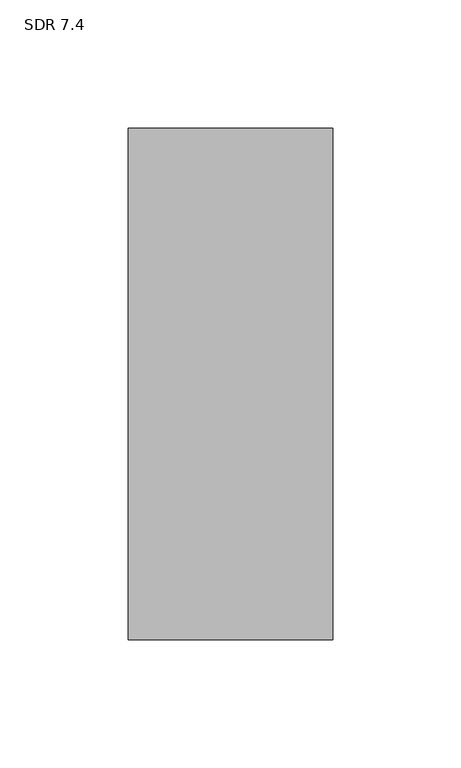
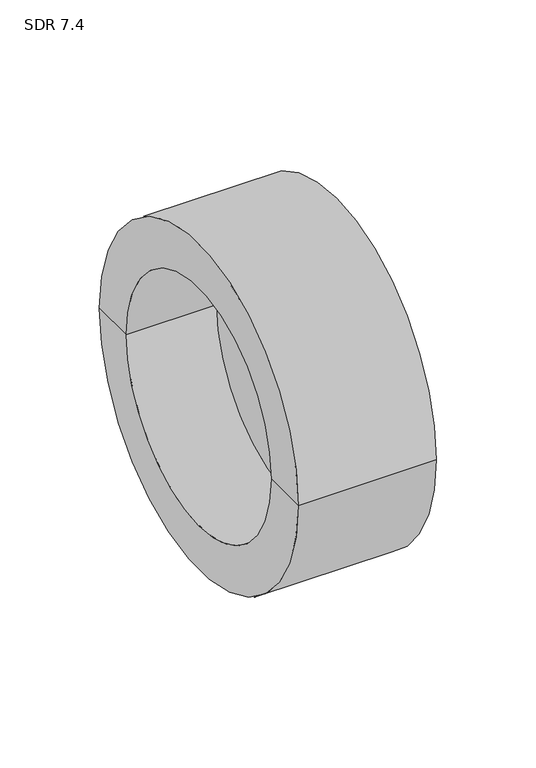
"""IFC4 building model written with IfcOpenShell, lengths in millimetres: pipe fitting geometry, Aquatherm - End Cap Butt-Weld : SDR 7.4."""

from ifc_helpers import new_model, si_unit, frame, origin, place, context, project, spatial, polyline, circle_curve, source, transform, mapped, element, save
from ifc_brep_helpers import plane_surface, cylinder_surface, revolved_surface, advanced_brep


def sdr_7_4_3e7879fd(model_context):
    return source(origin(), model_context, "Body", "AdvancedBrep", [
        advanced_brep(
        [(80.01, -99.949, 0.0), (80.01, 99.949, 0.0), (80.01, 0.0, 0.0), (52.578, 0.0, 0.0), (52.578, 73.025, 0.0), (52.578, -73.025, 0.0), (0.0, 73.025, 0.0), (0.0, -73.025, 0.0), (0.0, 99.949, 0.0), (0.0, -99.949, 0.0)],
        [
            (0, 1, circle_curve(frame((80.01, 0.0, 0.0), z_axis=(1.0, 0.0, 0.0), x_axis=(0.0, 1.0, 0.0)), 99.949)),
            (1, 2),
            (2, 0),
            (1, 0, circle_curve(frame((80.01, 0.0, 0.0), z_axis=(1.0, 0.0, 0.0), x_axis=(0.0, 1.0, 0.0)), 99.949)),
            (3, 4),
            (4, 5, circle_curve(frame((52.578, 0.0, 0.0), z_axis=(-1.0, 0.0, 0.0), x_axis=(0.0, 1.0, 0.0)), 73.025)),
            (5, 3),
            (5, 4, circle_curve(frame((52.578, 0.0, 0.0), z_axis=(-1.0, 0.0, 0.0), x_axis=(0.0, 1.0, 0.0)), 73.025)),
            (4, 6),
            (6, 7, circle_curve(frame((0.0, 0.0, 0.0), z_axis=(-1.0, 0.0, 0.0), x_axis=(0.0, 1.0, 0.0)), 73.025)),
            (7, 5),
            (7, 6, circle_curve(frame((0.0, 0.0, 0.0), z_axis=(-1.0, 0.0, 0.0), x_axis=(0.0, 1.0, 0.0)), 73.025)),
            (6, 8),
            (8, 9, circle_curve(frame((0.0, 0.0, 0.0), z_axis=(-1.0, 0.0, 0.0), x_axis=(0.0, 1.0, 0.0)), 99.949)),
            (9, 7),
            (9, 8, circle_curve(frame((0.0, 0.0, 0.0), z_axis=(-1.0, 0.0, 0.0), x_axis=(0.0, 1.0, 0.0)), 99.949)),
            (8, 1),
            (0, 9),
        ],
        [
            plane_surface(frame((80.01, 0.0, 0.0), z_axis=(1.0, 0.0, 0.0), x_axis=(0.0, 1.0, 0.0))),
            plane_surface(frame((52.578, 0.0, 0.0), z_axis=(-1.0, 0.0, 0.0), x_axis=(0.0, 1.0, 0.0))),
            revolved_surface(polyline([(0.0, 73.025, 0.0), (52.577999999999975, 73.025, 0.0)]), (-1363.98, 0.0, 0.0), (-1.0, 0.0, 0.0)),
            plane_surface(frame((0.0, 0.0, 0.0), z_axis=(-1.0, 0.0, 0.0), x_axis=(0.0, 1.0, 0.0))),
            cylinder_surface(frame((-1363.98, 0.0, 0.0), z_axis=(-1.0, 0.0, 0.0), x_axis=(0.0, 1.0, 0.0)), 99.949),
        ],
        [
            (0, [[1, 2, 3]]),
            (0, [[4, -3, -2]]),
            (1, [[5, 6, 7]]),
            (1, [[-7, 8, -5]]),
            (2, [[-6, 9, 10, 11]]),
            (2, [[-8, -11, 12, -9]]),
            (3, [[-10, 13, 14, 15]]),
            (3, [[-12, -15, 16, -13]]),
            (4, [[-14, 17, -1, 18]]),
            (4, [[-16, -18, -4, -17]]),
        ],
    ),
    ])


if __name__ == "__main__":
    model = new_model("IFC4")
    model_context = context("Model", 3, world=origin())
    ifc_project = project(units=[si_unit("LENGTHUNIT", "METRE", prefix="MILLI")], contexts=[model_context])
    site = spatial("IfcSite", under=ifc_project)
    building = spatial("IfcBuilding", under=site)
    placement = place(None, origin())
    sdr_7_4_shape = sdr_7_4_3e7879fd(model_context)
    element("IfcPipeFitting", 1, ObjectType="Aquatherm - End Cap Butt-Weld : SDR 7.4", at=placement, inside=building, context=model_context, shape_type="MappedRepresentation", body=[
        mapped(sdr_7_4_shape, transform((0.0, 0.0, 0.0), x_axis=(1.0, 0.0, 0.0), y_axis=(0.0, 1.0, 0.0), z_axis=(0.0, 0.0, 1.0))),
    ])
    save(model, "model.ifc")
